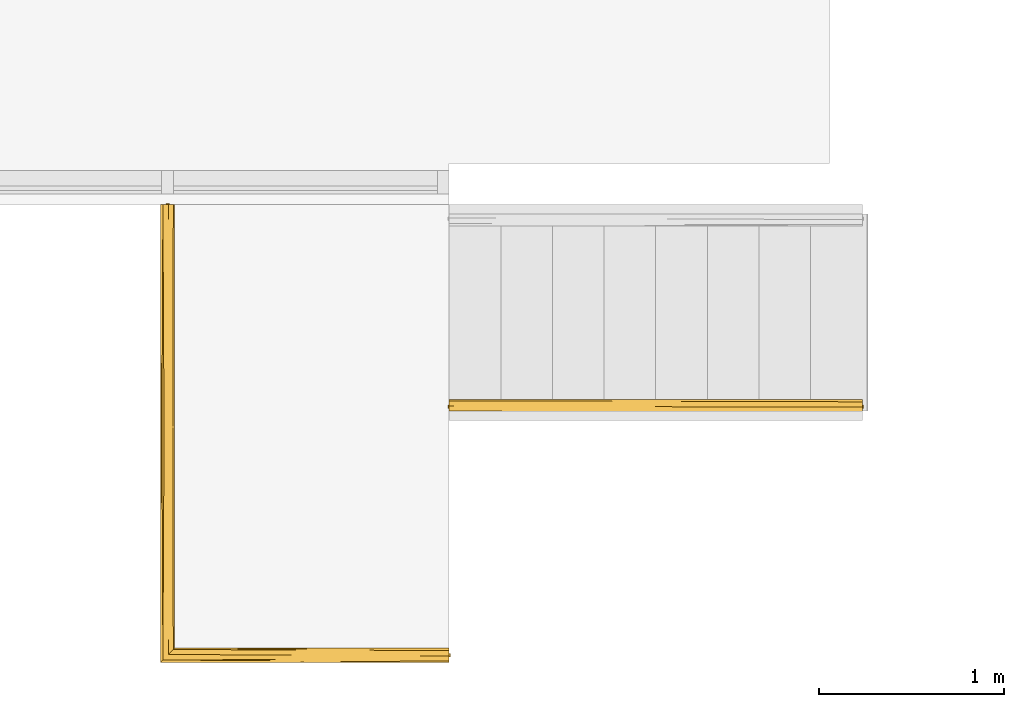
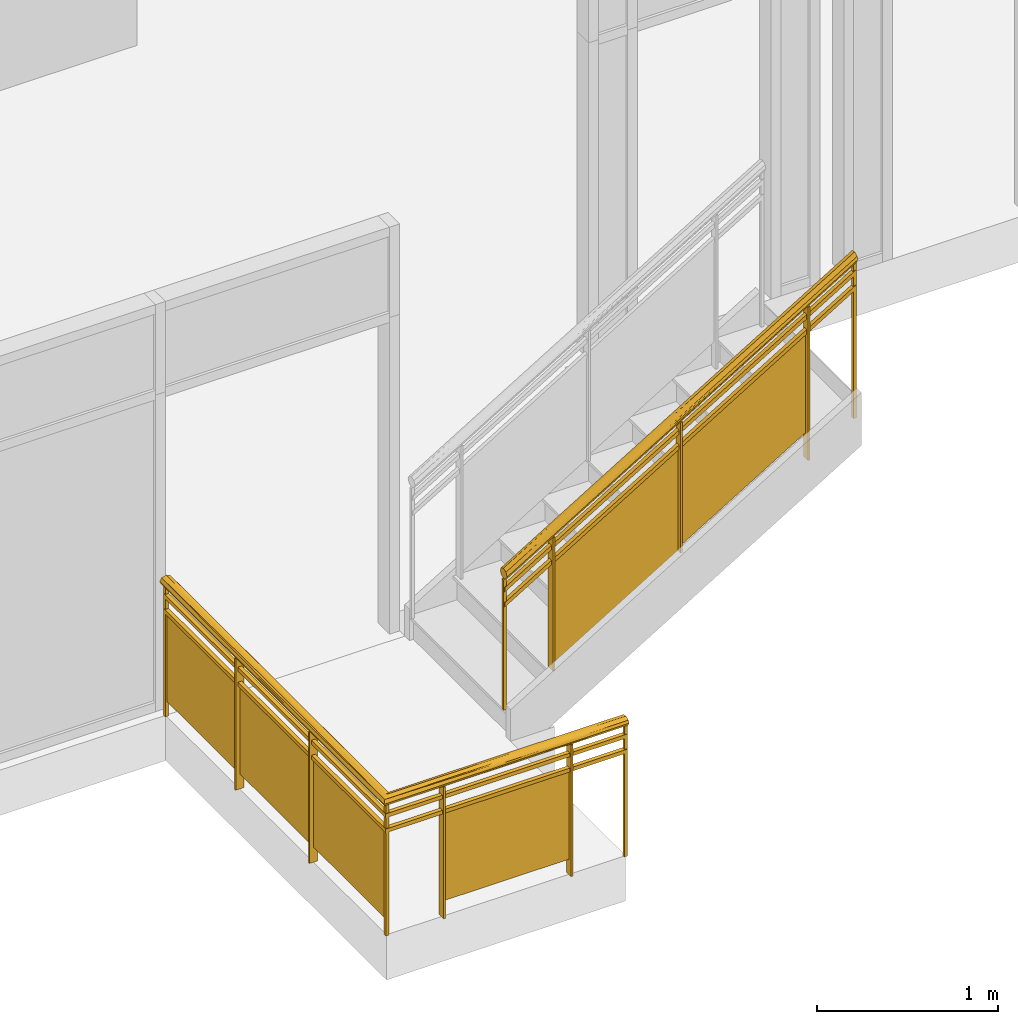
# One storey, part 8 of 11: 2 railings, 1 element without a shape of its own.
"""IFC2X3 building model written with IfcOpenShell, lengths in feet."""

from ifc_helpers import new_model, entity, si_unit, converted_unit, derived_unit, direction, frame, origin, place, context, subcontext, project, spatial, faceted_brep, material, material_list, element, aggregate, save


model = new_model("IFC2X3")

# Units and contexts
model_context = context("Model", 3, precision=0.0001, world=origin(), true_north=direction((6.12303176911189e-17, 1.0)))
body_context = subcontext(model_context, "Body", "Model", "MODEL_VIEW")
ifc_project = project(units=[converted_unit("LENGTHUNIT", "FOOT", entity("IfcRatioMeasure", 0.3048), si_unit("LENGTHUNIT", "METRE"), dimensions=[1, 0, 0, 0, 0, 0, 0]), converted_unit("AREAUNIT", "SQUARE FOOT", entity("IfcRatioMeasure", 0.09290304), si_unit("AREAUNIT", "SQUARE_METRE"), dimensions=[2, 0, 0, 0, 0, 0, 0]), converted_unit("VOLUMEUNIT", "CUBIC FOOT", entity("IfcRatioMeasure", 0.028316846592), si_unit("VOLUMEUNIT", "CUBIC_METRE"), dimensions=[3, 0, 0, 0, 0, 0, 0]), converted_unit("PLANEANGLEUNIT", "DEGREE", entity("IfcRatioMeasure", 0.0174532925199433), si_unit("PLANEANGLEUNIT", "RADIAN"), dimensions=[0, 0, 0, 0, 0, 0, 0]), si_unit("MASSUNIT", "GRAM", prefix="KILO"), derived_unit("MASSDENSITYUNIT", [(si_unit("MASSUNIT", "GRAM", prefix="KILO"), 1), (si_unit("LENGTHUNIT", "METRE"), -3)]), si_unit("TIMEUNIT", "SECOND"), si_unit("FREQUENCYUNIT", "HERTZ"), si_unit("THERMODYNAMICTEMPERATUREUNIT", "DEGREE_CELSIUS"), derived_unit("THERMALTRANSMITTANCEUNIT", [(si_unit("MASSUNIT", "GRAM", prefix="KILO"), 1), (si_unit("THERMODYNAMICTEMPERATUREUNIT", "KELVIN"), -1), (si_unit("TIMEUNIT", "SECOND"), -3)]), derived_unit("VOLUMETRICFLOWRATEUNIT", [(si_unit("LENGTHUNIT", "METRE"), 3), (si_unit("TIMEUNIT", "SECOND"), -1)]), si_unit("ELECTRICCURRENTUNIT", "AMPERE"), si_unit("ELECTRICVOLTAGEUNIT", "VOLT"), si_unit("POWERUNIT", "WATT"), si_unit("FORCEUNIT", "NEWTON"), si_unit("ILLUMINANCEUNIT", "LUX"), si_unit("LUMINOUSFLUXUNIT", "LUMEN"), si_unit("LUMINOUSINTENSITYUNIT", "CANDELA"), derived_unit("USERDEFINED", [(si_unit("MASSUNIT", "GRAM", prefix="KILO"), -1), (si_unit("LENGTHUNIT", "METRE"), -2), (si_unit("TIMEUNIT", "SECOND"), 3), (si_unit("LUMINOUSFLUXUNIT", "LUMEN"), 1)]), derived_unit("LINEARVELOCITYUNIT", [(si_unit("LENGTHUNIT", "METRE"), 1), (si_unit("TIMEUNIT", "SECOND"), -1)]), si_unit("PRESSUREUNIT", "PASCAL"), derived_unit("USERDEFINED", [(si_unit("LENGTHUNIT", "METRE"), -2), (si_unit("MASSUNIT", "GRAM", prefix="KILO"), 1), (si_unit("TIMEUNIT", "SECOND"), -2)])], contexts=[model_context])

# Site, building, storey
site_placement = place(None, origin())
site = spatial("IfcSite", under=ifc_project, at=site_placement, Name="Default", CompositionType="ELEMENT")
building_placement = place(site_placement, origin())
building = spatial("IfcBuilding", under=site, at=building_placement, CompositionType="ELEMENT")
storey_placement = place(building_placement, frame((0.0, 0.0, 10.0)))
storey = spatial("IfcBuildingStorey", under=building, at=storey_placement, Name="Level 2", CompositionType="ELEMENT", Elevation=9.99999999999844)

# Stair, railing
stair_placement = place(storey_placement, origin())
stair = element("IfcStair", 1, at=stair_placement, inside=storey, Name="Assembled Stair:Stair", ObjectType="Assembled Stair:7\" max riser 11\" tread", ShapeType="NOTDEFINED")
ifc_material_1 = material(Name="Glass")
ifc_material_2 = material(Name="alum - color")
ifc_material_list_1 = material_list([ifc_material_1, ifc_material_2])
railing_1_placement = place(stair_placement, frame((-46.3459961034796, -11.0505417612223, 0.555555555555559)))
railing_1 = element("IfcRailing", 2, at=railing_1_placement, material=ifc_material_list_1, Name="Railing:Glass Panel - Bottom Fill", ObjectType="Railing:Glass Panel - Bottom Fill", PredefinedType="NOTDEFINED", context=body_context, shape_type="Brep", body=[
    faceted_brep([(6.33333333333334, 0.0469004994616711, 6.71557302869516), (6.33333333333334, 0.213567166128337, 6.71557302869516), (6.33333333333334, 0.213567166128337, 3.33333333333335), (6.33333333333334, 0.0469004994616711, 3.33333333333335), (6.37500000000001, 0.0469004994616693, 6.74082555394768), (6.37500000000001, 0.0469004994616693, 3.33333333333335), (6.37500000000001, 0.213567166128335, 6.74082555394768), (6.37500000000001, 0.213567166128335, 3.33333333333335)], [[[0, 1, 2, 3]], [[4, 0, 3, 5]], [[6, 4, 5, 7]], [[1, 6, 7, 2]], [[1, 0, 4, 6]], [[3, 2, 7, 5]]]),
    faceted_brep([(3.6875, 0.151674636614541, 2.30303030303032), (3.6875, 0.151674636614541, 4.50683388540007), (6.35416666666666, 0.151674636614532, 6.12299550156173), (6.35416666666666, 0.151674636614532, 3.91919191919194), (3.6875, 0.130841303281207, 2.30303030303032), (6.35416666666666, 0.130841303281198, 3.91919191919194), (6.35416666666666, 0.130841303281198, 6.12299550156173), (3.6875, 0.130841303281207, 4.50683388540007)], [[[0, 1, 2, 3]], [[4, 5, 6, 7]], [[1, 0, 4, 7]], [[2, 1, 7, 6]], [[3, 2, 6, 5]], [[0, 3, 5, 4]]]),
    faceted_brep([(3.66666666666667, 0.0469004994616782, 5.09941141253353), (3.66666666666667, 0.213567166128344, 5.09941141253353), (3.66666666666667, 0.213567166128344, 2.22222222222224), (3.66666666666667, 0.0469004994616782, 2.22222222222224), (3.70833333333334, 0.0469004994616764, 5.12466393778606), (3.70833333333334, 0.0469004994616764, 2.22222222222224), (3.70833333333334, 0.213567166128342, 5.12466393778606), (3.70833333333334, 0.213567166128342, 2.22222222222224)], [[[0, 1, 2, 3]], [[4, 0, 3, 5]], [[6, 4, 5, 7]], [[1, 6, 7, 2]], [[1, 0, 4, 6]], [[3, 2, 7, 5]]]),
    faceted_brep([(1.02083333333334, 0.151674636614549, 0.636363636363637), (1.02083333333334, 0.151674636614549, 2.89067226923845), (3.6875, 0.151674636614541, 4.50683388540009), (3.6875, 0.151674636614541, 2.25252525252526), (1.02083333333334, 0.130841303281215, 0.636363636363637), (3.6875, 0.130841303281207, 2.25252525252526), (3.6875, 0.130841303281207, 4.50683388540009), (1.02083333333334, 0.130841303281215, 2.89067226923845)], [[[0, 1, 2, 3]], [[4, 5, 6, 7]], [[1, 0, 4, 7]], [[2, 1, 7, 6]], [[3, 2, 6, 5]], [[0, 3, 5, 4]]]),
    faceted_brep([(1.0, 0.0469004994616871, 3.48324979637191), (1.0, 0.213567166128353, 3.48324979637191), (1.0, 0.213567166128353, 0.555555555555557), (1.0, 0.0469004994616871, 0.555555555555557), (1.04166666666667, 0.0469004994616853, 3.50850232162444), (1.04166666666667, 0.0469004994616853, 0.555555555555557), (1.04166666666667, 0.213567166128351, 3.50850232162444), (1.04166666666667, 0.213567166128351, 0.555555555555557)], [[[0, 1, 2, 3]], [[4, 0, 3, 5]], [[6, 4, 5, 7]], [[1, 6, 7, 2]], [[1, 0, 4, 6]], [[3, 2, 7, 5]]]),
    faceted_brep([(7.31250000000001, 0.0989838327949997, 7.3090073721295), (7.31250000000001, 0.161483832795, 7.3090073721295), (7.31250000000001, 0.161483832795, 3.88888888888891), (7.31250000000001, 0.0989838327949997, 3.88888888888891), (7.37500000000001, 0.0989838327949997, 7.34688616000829), (7.37500000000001, 0.0989838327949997, 3.88888888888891), (7.37500000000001, 0.161483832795, 7.34688616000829), (7.37500000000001, 0.161483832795, 3.88888888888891)], [[[0, 1, 2, 3]], [[4, 0, 3, 5]], [[6, 4, 5, 7]], [[1, 6, 7, 2]], [[1, 0, 4, 6]], [[3, 2, 7, 5]]]),
    faceted_brep([(0.0, 0.0989838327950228, 2.8771891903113), (0.0, 0.161483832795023, 2.8771891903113), (0.0, 0.161483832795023, 0.0), (0.0, 0.0989838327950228, 0.0), (0.0625, 0.0989838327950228, 2.91506797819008), (0.0625, 0.0989838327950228, 0.0), (0.0625, 0.161483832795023, 2.91506797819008), (0.0625, 0.161483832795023, 0.0)], [[[0, 1, 2, 3]], [[4, 0, 3, 5]], [[6, 4, 5, 7]], [[1, 6, 7, 2]], [[1, 0, 4, 6]], [[3, 2, 7, 5]]]),
    faceted_brep([(0.0208333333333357, 0.0885671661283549, 2.71538833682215), (0.0208333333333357, 0.171900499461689, 2.71538833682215), (0.0208333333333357, 0.171900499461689, 2.61794499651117), (0.0208333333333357, 0.0885671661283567, 2.61794499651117), (7.35416666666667, 0.0885671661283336, 7.15983278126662), (7.35416666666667, 0.0885671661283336, 7.06238944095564), (7.35416666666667, 0.171900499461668, 7.06238944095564), (7.35416666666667, 0.171900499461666, 7.15983278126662)], [[[0, 1, 2, 3]], [[4, 5, 6, 7]], [[1, 0, 4, 7]], [[2, 1, 7, 6]], [[3, 2, 6, 5]], [[0, 3, 5, 4]]]),
    faceted_brep([(0.0208333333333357, 0.0885671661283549, 2.38205500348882), (0.0208333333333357, 0.171900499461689, 2.38205500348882), (0.0208333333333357, 0.171900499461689, 2.28461166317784), (0.0208333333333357, 0.0885671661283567, 2.28461166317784), (7.35416666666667, 0.0885671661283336, 6.82649944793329), (7.35416666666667, 0.0885671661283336, 6.72905610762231), (7.35416666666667, 0.171900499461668, 6.72905610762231), (7.35416666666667, 0.171900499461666, 6.8264994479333)], [[[0, 1, 2, 3]], [[4, 5, 6, 7]], [[1, 0, 4, 7]], [[2, 1, 7, 6]], [[3, 2, 6, 5]], [[0, 3, 5, 4]]]),
    faceted_brep([(0.0208333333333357, 0.0465925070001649, 3.0814663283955), (0.0208333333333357, 0.0949461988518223, 3.09524477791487), (0.0208333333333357, 0.14329989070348, 3.10902322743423), (0.0208333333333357, 0.187330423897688, 3.08672922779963), (0.0208333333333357, 0.231360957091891, 3.06443522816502), (0.0208333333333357, 0.243297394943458, 3.03221761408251), (0.0208333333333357, 0.255233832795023, 3.0), (0.0208333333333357, 0.234554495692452, 2.95926683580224), (0.0208333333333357, 0.213875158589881, 2.91853367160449), (0.0208333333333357, 0.165521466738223, 2.90475522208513), (0.0208333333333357, 0.141344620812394, 2.89786599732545), (0.0208333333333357, 0.117167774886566, 2.89097677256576), (0.0208333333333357, 0.0731372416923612, 2.91327077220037), (0.0208333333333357, 0.0291067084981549, 2.93556477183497), (0.0208333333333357, 0.0171702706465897, 2.96778238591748), (0.0208333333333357, 0.00523383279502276, 3.0), (0.0208333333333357, 0.0259131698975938, 3.04073316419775), (7.35416666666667, 0.0259131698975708, 7.40371128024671), (7.35416666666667, 0.0465925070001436, 7.36297811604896), (7.35416666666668, 0.094946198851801, 7.34919966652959), (7.35416666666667, 0.143299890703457, 7.33542121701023), (7.35416666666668, 0.187330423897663, 7.35771521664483), (7.35416666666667, 0.231360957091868, 7.38000921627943), (7.35416666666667, 0.243297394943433, 7.41222683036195), (7.35416666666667, 0.255233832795, 7.44444444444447), (7.35416666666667, 0.244378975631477, 7.46582582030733), (7.35416666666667, 0.234554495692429, 7.48517760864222), (7.35416666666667, 0.213875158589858, 7.52591077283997), (7.35416666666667, 0.165521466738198, 7.53968922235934), (7.35416666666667, 0.117167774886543, 7.55346767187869), (7.35416666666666, 0.0951525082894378, 7.5423206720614), (7.35416666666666, 0.0731372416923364, 7.5311736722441), (7.35416666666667, 0.0291067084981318, 7.50887967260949), (7.35416666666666, 0.0171702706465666, 7.47666205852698), (7.35416666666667, 0.00523383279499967, 7.44444444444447), (3.70029054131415, 0.246755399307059, 5.19028869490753), (3.87247818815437, 0.177511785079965, 5.23284993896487), (3.91578387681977, 0.207600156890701, 5.27447257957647), (3.07871506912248, 0.231313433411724, 4.7887691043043), (3.15948400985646, 0.255233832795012, 4.90221253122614), (4.21550890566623, 0.25523383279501, 5.5422276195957), (4.04114830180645, 0.0629732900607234, 5.34415364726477), (3.22585875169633, 0.0946029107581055, 4.8373638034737), (3.68929300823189, 0.130201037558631, 5.11368513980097), (3.72718018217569, 0.0367721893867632, 5.17347577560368), (3.44651497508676, 0.0177333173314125, 5.02838773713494), (3.15947114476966, 0.00523383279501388, 4.90220473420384), (3.54783177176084, 0.0115093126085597, 5.17187272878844), (3.33044597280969, 0.0259810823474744, 5.06630868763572), (4.14481111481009, 0.0490518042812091, 5.58273826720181), (3.68590222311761, 0.0794402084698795, 5.32141906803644), (3.19149194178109, 0.251785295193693, 4.94718335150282), (3.54340951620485, 0.127144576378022, 5.24448493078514), (3.42716626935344, 0.161623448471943, 5.17055526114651), (3.59902271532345, 0.221853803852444, 5.2431735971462), (3.379265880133, 0.241652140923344, 5.08510860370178), (4.2604444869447, 0.193327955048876, 5.66409552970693)], [[[0, 1, 2, 3, 4, 5, 6, 7, 8, 9, 10, 11, 12, 13, 14, 15, 16]], [[17, 18, 19, 20, 21, 22, 23, 24, 25, 26, 27, 28, 29, 30, 31, 32, 33, 34]], [[35, 7, 6]], [[9, 8, 36, 10]], [[22, 37, 38]], [[37, 36, 8]], [[21, 36, 37]], [[35, 6, 39, 40]], [[41, 42, 19]], [[38, 7, 35]], [[19, 42, 43]], [[44, 41, 18]], [[13, 45, 14]], [[8, 38, 37]], [[44, 12, 41]], [[38, 8, 7]], [[11, 43, 42]], [[17, 34, 46]], [[35, 23, 22]], [[11, 10, 43]], [[40, 24, 23]], [[21, 37, 22]], [[36, 21, 20]], [[36, 20, 43]], [[36, 43, 10]], [[43, 20, 19]], [[42, 12, 11]], [[12, 42, 41]], [[13, 12, 44]], [[18, 41, 19]], [[46, 15, 14]], [[44, 18, 17]], [[17, 45, 44]], [[38, 35, 22]], [[45, 17, 46]], [[23, 35, 40]], [[44, 45, 13]], [[14, 45, 46]], [[16, 47, 48]], [[0, 48, 49]], [[49, 31, 50]], [[31, 30, 50]], [[51, 26, 25]], [[2, 52, 53]], [[54, 27, 26]], [[54, 55, 4]], [[26, 51, 55]], [[47, 16, 15]], [[54, 26, 55]], [[5, 4, 55]], [[25, 24, 40, 39]], [[56, 54, 3]], [[56, 3, 53]], [[50, 0, 49]], [[27, 54, 56]], [[51, 39, 6]], [[53, 52, 28]], [[54, 4, 3]], [[56, 28, 27]], [[28, 56, 53]], [[5, 55, 51]], [[29, 28, 52]], [[2, 53, 3]], [[30, 29, 52]], [[52, 2, 1]], [[1, 0, 50]], [[52, 50, 30]], [[1, 50, 52]], [[49, 32, 31]], [[32, 49, 48]], [[33, 48, 47]], [[16, 48, 0]], [[46, 34, 47, 15]], [[33, 32, 48]], [[33, 47, 34]], [[5, 51, 6]], [[39, 51, 25]]]),
])
aggregate(stair, [railing_1])

# Railing
ifc_material_list_2 = material_list([ifc_material_1, ifc_material_2])
railing_2_placement = place(storey_placement, frame((-51.4553966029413, -15.4672084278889, 0.0)))
element("IfcRailing", 3, at=railing_2_placement, inside=storey, material=ifc_material_list_2, Name="Railing:Glass Panel - Bottom Fill", ObjectType="Railing:Glass Panel - Bottom Fill", PredefinedType="NOTDEFINED", context=body_context, shape_type="Brep", body=[
    faceted_brep([(3.94273383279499, 0.0469004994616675, 2.90577041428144), (3.94273383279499, 0.213567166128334, 2.90577041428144), (3.94273383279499, 0.213567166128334, 0.0), (3.94273383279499, 0.0469004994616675, 0.0), (3.98440049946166, 0.0469004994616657, 2.90577041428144), (3.98440049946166, 0.0469004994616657, 0.0), (3.98440049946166, 0.213567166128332, 2.90577041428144), (3.98440049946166, 0.213567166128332, 0.0)], [[[0, 1, 2, 3]], [[4, 0, 3, 5]], [[6, 4, 5, 7]], [[1, 6, 7, 2]], [[1, 0, 4, 6]], [[3, 2, 7, 5]]]),
    faceted_brep([(1.29690049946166, 0.15167463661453, 0.333333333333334), (1.29690049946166, 0.15167463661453, 2.29166666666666), (3.96356716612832, 0.15167463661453, 2.29166666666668), (3.96356716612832, 0.15167463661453, 0.333333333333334), (1.29690049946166, 0.130841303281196, 0.333333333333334), (3.96356716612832, 0.130841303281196, 0.333333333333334), (3.96356716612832, 0.130841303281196, 2.29166666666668), (1.29690049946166, 0.130841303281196, 2.29166666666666)], [[[0, 1, 2, 3]], [[4, 5, 6, 7]], [[1, 0, 4, 7]], [[2, 1, 7, 6]], [[3, 2, 6, 5]], [[0, 3, 5, 4]]]),
    faceted_brep([(1.27606716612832, 0.0469004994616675, 2.90577041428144), (1.27606716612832, 0.213567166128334, 2.90577041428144), (1.27606716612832, 0.213567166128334, 0.0), (1.27606716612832, 0.0469004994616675, 0.0), (1.31773383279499, 0.0469004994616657, 2.90577041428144), (1.31773383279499, 0.0469004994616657, 0.0), (1.31773383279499, 0.213567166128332, 2.90577041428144), (1.31773383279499, 0.213567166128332, 0.0)], [[[0, 1, 2, 3]], [[4, 0, 3, 5]], [[6, 4, 5, 7]], [[1, 6, 7, 2]], [[1, 0, 4, 6]], [[3, 2, 7, 5]]]),
    faceted_brep([(0.15167463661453, 2.79690049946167, 0.333333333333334), (0.15167463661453, 2.79690049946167, 2.29166666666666), (0.15167463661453, 0.130233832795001, 2.29166666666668), (0.15167463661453, 0.130233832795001, 0.333333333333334), (0.130841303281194, 2.79690049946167, 0.333333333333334), (0.130841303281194, 0.130233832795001, 0.333333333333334), (0.130841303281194, 0.130233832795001, 2.29166666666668), (0.130841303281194, 2.79690049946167, 2.29166666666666)], [[[0, 1, 2, 3]], [[4, 5, 6, 7]], [[1, 0, 4, 7]], [[2, 1, 7, 6]], [[3, 2, 6, 5]], [[0, 3, 5, 4]]]),
    faceted_brep([(0.0469004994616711, 2.817733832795, 2.90577041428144), (0.213567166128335, 2.817733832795, 2.90577041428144), (0.213567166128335, 2.817733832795, 0.0), (0.0469004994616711, 2.817733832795, 0.0), (0.046900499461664, 2.77606716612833, 2.90577041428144), (0.046900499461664, 2.77606716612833, 0.0), (0.213567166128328, 2.77606716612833, 2.90577041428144), (0.213567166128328, 2.77606716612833, 0.0)], [[[0, 1, 2, 3]], [[4, 0, 3, 5]], [[6, 4, 5, 7]], [[1, 6, 7, 2]], [[1, 0, 4, 6]], [[3, 2, 7, 5]]]),
    faceted_brep([(0.15167463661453, 5.46356716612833, 0.333333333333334), (0.15167463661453, 5.46356716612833, 2.29166666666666), (0.15167463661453, 2.79690049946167, 2.29166666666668), (0.15167463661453, 2.79690049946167, 0.333333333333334), (0.130841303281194, 5.46356716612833, 0.333333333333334), (0.130841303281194, 2.79690049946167, 0.333333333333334), (0.130841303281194, 2.79690049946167, 2.29166666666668), (0.130841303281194, 5.46356716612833, 2.29166666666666)], [[[0, 1, 2, 3]], [[4, 5, 6, 7]], [[1, 0, 4, 7]], [[2, 1, 7, 6]], [[3, 2, 6, 5]], [[0, 3, 5, 4]]]),
    faceted_brep([(0.0469004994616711, 5.48440049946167, 2.90577041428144), (0.213567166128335, 5.48440049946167, 2.90577041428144), (0.213567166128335, 5.48440049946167, 0.0), (0.0469004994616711, 5.48440049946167, 0.0), (0.046900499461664, 5.442733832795, 2.90577041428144), (0.046900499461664, 5.442733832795, 0.0), (0.213567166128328, 5.442733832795, 2.90577041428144), (0.213567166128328, 5.442733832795, 0.0)], [[[0, 1, 2, 3]], [[4, 0, 3, 5]], [[6, 4, 5, 7]], [[1, 6, 7, 2]], [[1, 0, 4, 6]], [[3, 2, 7, 5]]]),
    faceted_brep([(0.15167463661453, 8.130233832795, 0.333333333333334), (0.15167463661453, 8.130233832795, 2.29166666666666), (0.15167463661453, 5.46356716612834, 2.29166666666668), (0.15167463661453, 5.46356716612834, 0.333333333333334), (0.130841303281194, 8.130233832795, 0.333333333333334), (0.130841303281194, 5.46356716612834, 0.333333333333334), (0.130841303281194, 5.46356716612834, 2.29166666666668), (0.130841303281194, 8.130233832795, 2.29166666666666)], [[[0, 1, 2, 3]], [[4, 5, 6, 7]], [[1, 0, 4, 7]], [[2, 1, 7, 6]], [[3, 2, 6, 5]], [[0, 3, 5, 4]]]),
    faceted_brep([(0.0989838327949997, 0.161483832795, 2.90577041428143), (0.161483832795, 0.161483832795, 2.90577041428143), (0.161483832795, 0.161483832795, 0.0), (0.0989838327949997, 0.161483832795, 0.0), (0.0989838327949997, 0.0989838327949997, 2.90577041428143), (0.0989838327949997, 0.0989838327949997, 0.0), (0.161483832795, 0.0989838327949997, 2.90577041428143), (0.161483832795, 0.0989838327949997, 0.0)], [[[0, 1, 2, 3]], [[4, 0, 3, 5]], [[6, 4, 5, 7]], [[1, 6, 7, 2]], [[1, 0, 4, 6]], [[3, 2, 7, 5]]]),
    faceted_brep([(5.08856716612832, 0.0989838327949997, 2.90577041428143), (5.08856716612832, 0.161483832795, 2.90577041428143), (5.08856716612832, 0.161483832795, 0.0), (5.08856716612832, 0.0989838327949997, 0.0), (5.15106716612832, 0.0989838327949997, 2.90577041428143), (5.15106716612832, 0.0989838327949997, 0.0), (5.15106716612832, 0.161483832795, 2.90577041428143), (5.15106716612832, 0.161483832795, 0.0)], [[[0, 1, 2, 3]], [[4, 0, 3, 5]], [[6, 4, 5, 7]], [[1, 6, 7, 2]], [[1, 0, 4, 6]], [[3, 2, 7, 5]]]),
    faceted_brep([(0.0989838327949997, 8.15106716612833, 2.90577041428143), (0.161483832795, 8.15106716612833, 2.90577041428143), (0.161483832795, 8.15106716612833, 0.0), (0.0989838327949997, 8.15106716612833, 0.0), (0.0989838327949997, 8.08856716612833, 2.90577041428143), (0.0989838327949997, 8.08856716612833, 0.0), (0.161483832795, 8.08856716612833, 2.90577041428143), (0.161483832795, 8.08856716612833, 0.0)], [[[0, 1, 2, 3]], [[4, 0, 3, 5]], [[6, 4, 5, 7]], [[1, 6, 7, 2]], [[1, 0, 4, 6]], [[3, 2, 7, 5]]]),
    faceted_brep([(0.0885671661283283, 8.130233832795, 2.70833333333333), (0.171900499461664, 8.130233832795, 2.70833333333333), (0.171900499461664, 8.130233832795, 2.625), (0.0885671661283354, 8.130233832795, 2.625), (0.0885671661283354, 0.0885671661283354, 2.70833333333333), (0.171900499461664, 0.171900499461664, 2.70833333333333), (0.171900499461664, 0.171900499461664, 2.625), (0.0885671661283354, 0.0885671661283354, 2.625), (5.13023383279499, 0.0885671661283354, 2.70833333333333), (5.13023383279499, 0.0885671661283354, 2.625), (5.13023383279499, 0.171900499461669, 2.625), (5.13023383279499, 0.171900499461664, 2.70833333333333)], [[[0, 1, 2, 3]], [[1, 0, 4, 5]], [[2, 1, 5, 6]], [[3, 2, 6, 7]], [[0, 3, 7, 4]], [[8, 9, 10, 11]], [[5, 4, 8, 11]], [[6, 5, 11, 10]], [[7, 6, 10, 9]], [[4, 7, 9, 8]]]),
    faceted_brep([(0.0885671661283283, 8.130233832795, 2.375), (0.171900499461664, 8.130233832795, 2.375), (0.171900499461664, 8.130233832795, 2.29166666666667), (0.0885671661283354, 8.130233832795, 2.29166666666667), (0.0885671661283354, 0.0885671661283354, 2.375), (0.171900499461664, 0.171900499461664, 2.375), (0.171900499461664, 0.171900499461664, 2.29166666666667), (0.0885671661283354, 0.0885671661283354, 2.29166666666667), (5.13023383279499, 0.0885671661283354, 2.375), (5.13023383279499, 0.0885671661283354, 2.29166666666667), (5.13023383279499, 0.171900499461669, 2.29166666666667), (5.13023383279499, 0.171900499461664, 2.375)], [[[0, 1, 2, 3]], [[1, 0, 4, 5]], [[2, 1, 5, 6]], [[3, 2, 6, 7]], [[0, 3, 7, 4]], [[8, 9, 10, 11]], [[5, 4, 8, 11]], [[6, 5, 11, 10]], [[7, 6, 10, 9]], [[4, 7, 9, 8]]]),
    faceted_brep([(0.117167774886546, 8.130233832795, 2.90676357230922), (0.0731372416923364, 8.130233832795, 2.9258293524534), (0.0291067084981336, 8.130233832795, 2.94489513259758), (0.0171702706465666, 8.130233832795, 2.97244756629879), (0.00523383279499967, 8.130233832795, 3.0), (0.0259131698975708, 8.130233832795, 3.03483491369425), (0.0465925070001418, 8.130233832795, 3.06966982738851), (0.094946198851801, 8.130233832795, 3.08145312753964), (0.143299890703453, 8.130233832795, 3.09323642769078), (0.187330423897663, 8.130233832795, 3.0741706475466), (0.231360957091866, 8.130233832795, 3.05510486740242), (0.243297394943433, 8.130233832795, 3.02755243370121), (0.255233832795, 8.130233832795, 3.0), (0.234554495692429, 8.130233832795, 2.96516508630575), (0.213875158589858, 8.130233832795, 2.93033017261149), (0.165521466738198, 8.130233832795, 2.91854687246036), (0.165521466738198, 0.1655214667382, 2.91854687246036), (0.117167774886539, 0.117167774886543, 2.90676357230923), (0.143299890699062, 4.14787766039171, 2.90676357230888), (0.0188580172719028, 4.07967027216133, 2.95743839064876), (0.0291067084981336, 0.0291067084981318, 2.94489513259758), (0.0171702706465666, 0.0171702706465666, 2.97244756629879), (0.0137391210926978, 0.0137391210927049, 2.98036756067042), (0.234554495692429, 0.23455449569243, 2.96516508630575), (0.213875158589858, 0.213875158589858, 2.93033017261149), (0.23130291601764, 4.17205446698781, 2.94483526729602), (0.00523383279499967, 0.00523383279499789, 3.0), (0.00523383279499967, 3.52234576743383, 3.0), (0.192733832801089, 4.17205450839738, 2.91881011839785), (0.0085814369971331, 4.5661497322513, 2.97844882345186), (0.00523383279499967, 3.57772891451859, 3.0), (0.0731372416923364, 0.0731372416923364, 2.9258293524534), (0.0914039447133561, 4.10168553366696, 2.91088800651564), (0.246600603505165, 4.18239410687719, 2.96576371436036), (0.039745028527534, 4.07967026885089, 2.93532244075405), (0.255233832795, 4.61312962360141, 3.0), (0.255233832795, 4.55775285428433, 3.0), (0.255233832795, 0.255233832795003, 3.0), (0.0635502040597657, 4.29614994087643, 2.92070441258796), (0.241449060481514, 0.241449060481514, 2.97677917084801), (0.117167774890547, 4.13676685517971, 3.09323642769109), (0.24329739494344, 0.243297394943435, 3.02755243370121), (0.241575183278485, 4.18079739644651, 3.04261230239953), (0.231360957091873, 0.231360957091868, 3.05510486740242), (0.0259131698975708, 0.0259131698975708, 3.03483491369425), (0.0291067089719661, 4.08841313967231, 3.05510486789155), (0.0134595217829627, 4.07807343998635, 3.03344663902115), (0.0465925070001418, 0.0465925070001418, 3.06966982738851), (0.0675305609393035, 4.0884131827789, 3.08110167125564), (0.168659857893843, 4.13676686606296, 3.08921041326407), (0.221524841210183, 4.18079739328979, 3.06404030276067), (0.251826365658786, 3.78364768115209, 3.02174037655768), (0.0707693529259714, 0.0707693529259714, 3.07556147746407), (0.094946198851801, 0.0949461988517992, 3.08145312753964), (0.187330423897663, 0.187330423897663, 3.0741706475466), (0.197226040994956, 4.20738820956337, 3.07914914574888), (0.244356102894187, 0.244356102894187, 3.02510865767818), (0.143299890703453, 0.143299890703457, 3.09323642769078), (0.119123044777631, 0.119123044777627, 3.08734477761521), (5.13023383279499, 0.0259131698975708, 2.96516508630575), (5.13023383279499, 0.0465925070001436, 2.93033017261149), (5.13023383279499, 0.0949461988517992, 2.91854687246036), (5.13023383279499, 0.143299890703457, 2.90676357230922), (5.13023383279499, 0.187330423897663, 2.9258293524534), (5.13023383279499, 0.231360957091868, 2.94489513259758), (5.13023383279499, 0.243297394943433, 2.97244756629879), (5.13023383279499, 0.255233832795, 3.0), (5.13023383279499, 0.234554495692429, 3.03483491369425), (5.13023383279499, 0.213875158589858, 3.06966982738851), (5.13023383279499, 0.1655214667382, 3.08145312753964), (5.13023383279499, 0.117167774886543, 3.09323642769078), (5.13023383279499, 0.0731372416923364, 3.0741706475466), (5.13023383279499, 0.0291067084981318, 3.05510486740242), (5.13023383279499, 0.0171702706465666, 3.02755243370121), (5.13023383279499, 0.00523383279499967, 3.0), (2.90239529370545, 0.241609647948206, 2.95743839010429), (2.70037614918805, 0.222558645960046, 2.93679885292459), (2.90645167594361, 0.251872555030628, 2.97840545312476), (2.3629910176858, 0.255233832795, 3.0), (3.09254439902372, 0.255233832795, 3.0), (2.3497816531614, 0.19570759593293, 2.92013930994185), (2.77247653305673, 0.00523383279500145, 3.0), (2.39034776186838, 0.0180983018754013, 2.95857566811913), (2.60535897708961, 0.130792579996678, 2.90625093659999), (2.92509581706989, 0.164339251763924, 2.90980701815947), (2.34287893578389, 0.0959444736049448, 2.90984625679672), (2.56660659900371, 0.0376121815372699, 2.9370436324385), (2.88561839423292, 0.0639929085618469, 2.92049596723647), (2.29292314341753, 0.00523383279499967, 3.0), (2.6005015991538, 0.0564588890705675, 3.07568038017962), (2.2548050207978, 0.0307681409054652, 3.05678038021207), (2.90811221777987, 0.197520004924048, 3.07900875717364), (2.714957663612, 0.22380430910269, 3.06216213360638), (2.62419605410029, 0.0145921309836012, 3.03559140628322), (2.71450553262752, 0.132589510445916, 3.09373335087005), (2.82485670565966, 0.0979297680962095, 3.09056524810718), (2.40596040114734, 0.242343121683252, 3.04146426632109), (2.30840830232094, 0.165863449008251, 3.0898609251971)], [[[0, 1, 2, 3, 4, 5, 6, 7, 8, 9, 10, 11, 12, 13, 14, 15]], [[16, 17, 18]], [[19, 20, 21, 22]], [[23, 24, 25]], [[22, 26, 27]], [[25, 14, 13]], [[15, 14, 28]], [[24, 16, 28]], [[29, 27, 30, 4]], [[29, 3, 19]], [[31, 32, 17]], [[0, 32, 1]], [[3, 2, 19]], [[25, 13, 33]], [[15, 18, 0]], [[2, 34, 19]], [[1, 34, 2]], [[29, 19, 22]], [[33, 12, 35, 36, 37]], [[20, 19, 34]], [[34, 31, 20]], [[38, 32, 31]], [[3, 29, 4]], [[27, 29, 22]], [[18, 15, 28]], [[24, 28, 25]], [[32, 0, 18]], [[16, 18, 28]], [[25, 33, 23]], [[14, 25, 28]], [[13, 12, 33]], [[18, 17, 32]], [[1, 32, 38]], [[33, 37, 39, 23]], [[38, 34, 1]], [[34, 38, 31]], [[40, 8, 7]], [[41, 42, 43]], [[44, 45, 46]], [[10, 42, 11]], [[46, 5, 4]], [[47, 48, 45]], [[40, 49, 8]], [[43, 42, 50]], [[41, 51, 42]], [[48, 47, 52, 53]], [[54, 55, 49]], [[10, 50, 42]], [[51, 41, 56, 37]], [[55, 9, 49]], [[48, 40, 7]], [[57, 54, 49]], [[51, 12, 11]], [[45, 6, 5]], [[43, 50, 54]], [[50, 10, 9]], [[51, 37, 36, 35, 12]], [[42, 51, 11]], [[57, 49, 40]], [[8, 49, 9]], [[6, 45, 48]], [[47, 45, 44]], [[45, 5, 46]], [[46, 4, 30, 27, 26]], [[6, 48, 7]], [[40, 53, 58, 57]], [[53, 40, 48]], [[55, 50, 9]], [[50, 55, 54]], [[44, 46, 26]], [[59, 60, 61, 62, 63, 64, 65, 66, 67, 68, 69, 70, 71, 72, 73, 74]], [[65, 64, 75]], [[76, 24, 23]], [[23, 77, 75]], [[76, 23, 75]], [[77, 78, 79, 66]], [[39, 37, 78]], [[63, 80, 76]], [[80, 16, 24]], [[81, 82, 59]], [[62, 83, 84]], [[83, 61, 85]], [[86, 60, 59]], [[24, 76, 80]], [[61, 83, 62]], [[76, 75, 64]], [[77, 23, 39]], [[76, 64, 63]], [[80, 63, 84]], [[16, 80, 84]], [[65, 75, 77]], [[65, 77, 66]], [[78, 77, 39]], [[85, 61, 87]], [[62, 84, 63]], [[17, 16, 83]], [[84, 83, 16]], [[60, 86, 87]], [[85, 17, 83]], [[85, 31, 17]], [[31, 85, 87]], [[20, 82, 21]], [[60, 87, 61]], [[20, 31, 86]], [[87, 86, 31]], [[59, 74, 81]], [[59, 82, 86]], [[21, 81, 88, 26, 22]], [[86, 82, 20]], [[21, 82, 81]], [[89, 90, 72]], [[91, 68, 92]], [[93, 73, 72]], [[70, 94, 95]], [[96, 56, 41, 43]], [[94, 97, 57]], [[94, 58, 95]], [[91, 69, 68]], [[97, 91, 54]], [[54, 91, 92]], [[56, 79, 78, 37]], [[43, 92, 96]], [[68, 67, 92]], [[96, 67, 79]], [[54, 92, 43]], [[66, 79, 67]], [[96, 92, 67]], [[56, 96, 79]], [[69, 91, 97]], [[70, 69, 94]], [[57, 97, 54]], [[97, 94, 69]], [[52, 47, 89]], [[52, 89, 95]], [[71, 95, 89]], [[95, 71, 70]], [[53, 52, 95, 58]], [[94, 57, 58]], [[89, 72, 71]], [[93, 44, 26]], [[88, 93, 26]], [[90, 89, 47]], [[90, 47, 44]], [[90, 93, 72]], [[90, 44, 93]], [[73, 88, 81, 74]], [[73, 93, 88]]]),
])

save(model, "model.ifc")
